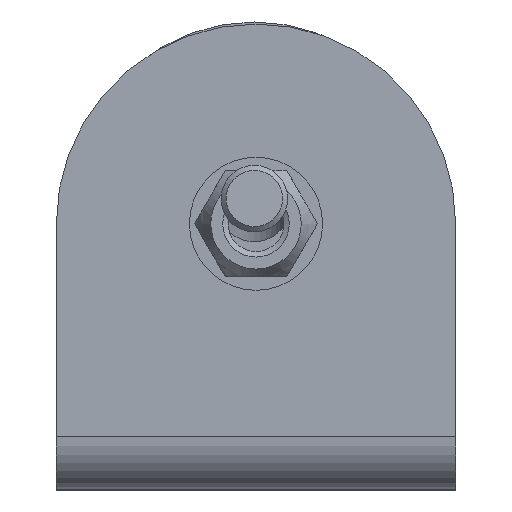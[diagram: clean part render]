
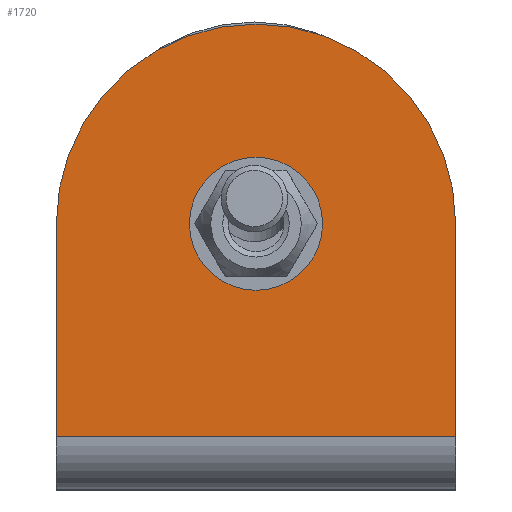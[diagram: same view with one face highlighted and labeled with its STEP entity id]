
A CAD part, left-side view. The second image highlights one B-rep face of the part: STEP entity #1720.
In plain terms, the highlighted planar face has unit normal (-1, 0, 0).
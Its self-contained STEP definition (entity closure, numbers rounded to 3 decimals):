
#137=LINE('',#2665,#247);
#138=LINE('',#2667,#248);
#139=LINE('',#2668,#249);
#247=VECTOR('',#2101,32.);
#248=VECTOR('',#2102,60.);
#249=VECTOR('',#2103,32.);
#355=PLANE('',#1857);
#421=FACE_BOUND('',#592,.T.);
#487=FACE_OUTER_BOUND('',#591,.T.);
#591=EDGE_LOOP('',(#1231,#1232,#1233,#1234));
#592=EDGE_LOOP('',(#1235));
#759=CIRCLE('',#1858,30.);
#760=CIRCLE('',#1859,5.5);
#851=VERTEX_POINT('',#2661);
#852=VERTEX_POINT('',#2662);
#853=VERTEX_POINT('',#2664);
#854=VERTEX_POINT('',#2666);
#855=VERTEX_POINT('',#2669);
#1002=EDGE_CURVE('',#851,#852,#759,.T.);
#1003=EDGE_CURVE('',#853,#852,#137,.T.);
#1004=EDGE_CURVE('',#853,#854,#138,.T.);
#1005=EDGE_CURVE('',#851,#854,#139,.T.);
#1006=EDGE_CURVE('',#855,#855,#760,.T.);
#1231=ORIENTED_EDGE('',*,*,#1002,.T.);
#1232=ORIENTED_EDGE('',*,*,#1003,.F.);
#1233=ORIENTED_EDGE('',*,*,#1004,.T.);
#1234=ORIENTED_EDGE('',*,*,#1005,.F.);
#1235=ORIENTED_EDGE('',*,*,#1006,.T.);
#1720=ADVANCED_FACE('',(#487,#421),#355,.F.);
#1857=AXIS2_PLACEMENT_3D('',#2660,#2097,#2098);
#1858=AXIS2_PLACEMENT_3D('',#2663,#2099,#2100);
#1859=AXIS2_PLACEMENT_3D('',#2670,#2104,#2105);
#2097=DIRECTION('center_axis',(1.,0.,0.));
#2098=DIRECTION('ref_axis',(0.,0.,-1.));
#2099=DIRECTION('center_axis',(-1.,0.,0.));
#2100=DIRECTION('ref_axis',(0.,1.,0.));
#2101=DIRECTION('',(0.,0.,1.));
#2102=DIRECTION('',(0.,-1.,0.));
#2103=DIRECTION('',(0.,0.,-1.));
#2104=DIRECTION('center_axis',(1.,0.,0.));
#2105=DIRECTION('ref_axis',(0.,0.,1.));
#2660=CARTESIAN_POINT('Origin',(-4.,30.,34.476));
#2661=CARTESIAN_POINT('',(-4.,0.,40.));
#2662=CARTESIAN_POINT('',(-4.,60.,40.));
#2663=CARTESIAN_POINT('Origin',(-4.,30.,40.));
#2664=CARTESIAN_POINT('',(-4.,60.,8.));
#2665=CARTESIAN_POINT('',(-4.,60.,8.));
#2666=CARTESIAN_POINT('',(-4.,0.,8.));
#2667=CARTESIAN_POINT('',(-4.,30.,8.));
#2668=CARTESIAN_POINT('',(-4.,0.,-10.096));
#2669=CARTESIAN_POINT('',(-4.,30.,34.5));
#2670=CARTESIAN_POINT('Origin',(-4.,30.,40.));
